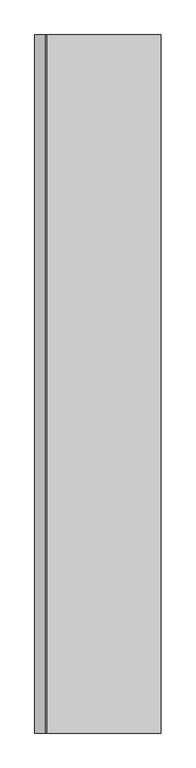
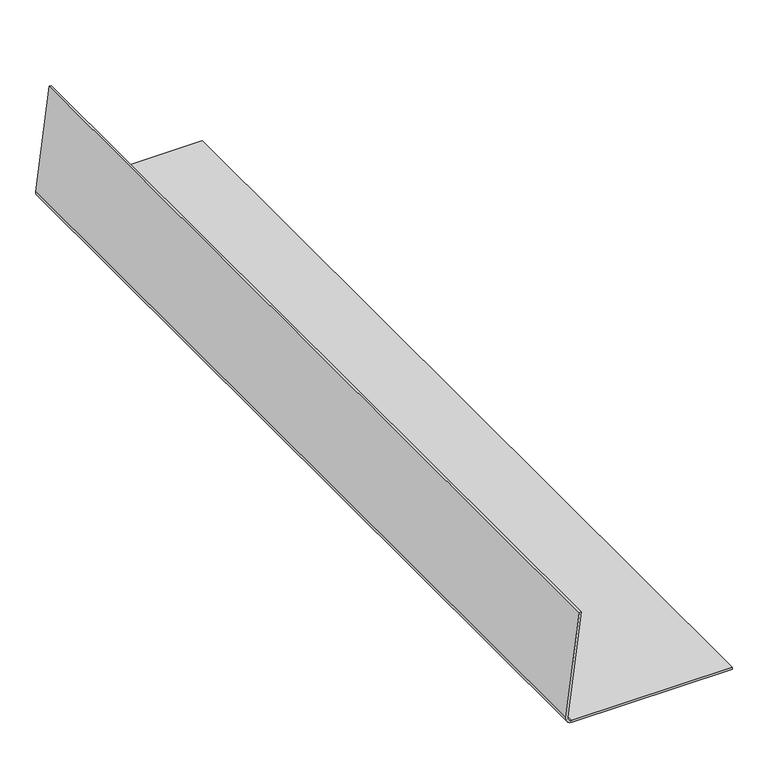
"""IFC4 building model written with IfcOpenShell, lengths in millimetres: plate geometry, 結構襯料 1 : 結構襯料 1."""

from ifc_helpers import new_model, si_unit, point, frame, frame_2d, origin, place, context, project, spatial, polyline, circle_curve, trimmed, segment, composite_curve, outline, extrude, source, transform, mapped, element, save


def plate_96401ba7(model_context):
    return source(origin(), model_context, "Body", "SweptSolid", [
        extrude(outline(composite_curve([segment(trimmed(circle_curve(frame_2d((-2233.5265766, -14153.1750706)), 9.6), [point((-2232.3358432, -14162.7009382))], [point((-2243.1265766, -14153.1750706))], False, "CARTESIAN"), True, "CONTINUOUS"), segment(polyline([(-2243.1265766, -14153.1750706), (-2243.1265766, -13894.0497799), (-2239.9265766, -13893.6497799), (-2239.9265766, -14153.1750706)]), True, "CONTINUOUS"), segment(trimmed(circle_curve(frame_2d((-2233.5265766, -14153.1750706)), 6.4), [point((-2239.9265766, -14153.1750706))], [point((-2232.7327543, -14159.525649))], True, "CARTESIAN"), True, "CONTINUOUS"), segment(polyline([(-2232.7327543, -14159.525649), (-2059.9265766, -14137.9248768), (-2059.9265766, -14141.1497799), (-2232.3358432, -14162.7009382)]), True, "CONTINUOUS")], self_intersect=False)), frame((0.0, -2590.1928355, 0.0), z_axis=(0.0, 1.0, 0.0), x_axis=(0.0, 0.0, 1.0)), (0.0, 0.0, 1.0), 1485.0),
    ])


if __name__ == "__main__":
    model = new_model("IFC4")
    model_context = context("Model", 3, world=origin())
    ifc_project = project(units=[si_unit("LENGTHUNIT", "METRE", prefix="MILLI")], contexts=[model_context])
    site = spatial("IfcSite", under=ifc_project)
    building = spatial("IfcBuilding", under=site)
    placement = place(None, origin())
    plate_shape = plate_96401ba7(model_context)
    element("IfcPlate", 1, ObjectType="結構襯料 1 : 結構襯料 1", at=placement, inside=building, context=model_context, shape_type="MappedRepresentation", body=[
        mapped(plate_shape, transform((0.0, 0.0, 0.0), x_axis=(1.0, 0.0, 0.0), y_axis=(0.0, 1.0, 0.0), z_axis=(0.0, 0.0, 1.0))),
    ])
    save(model, "model.ifc")
